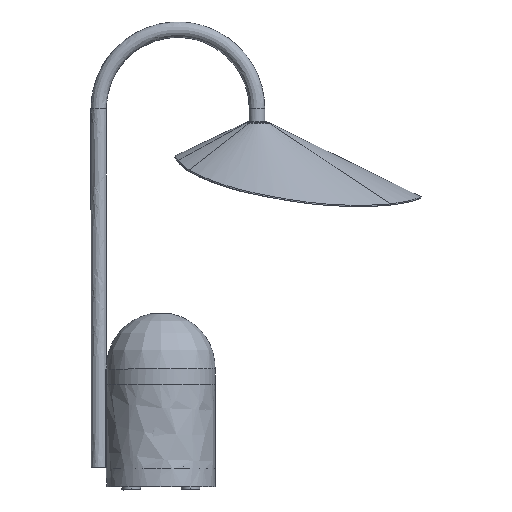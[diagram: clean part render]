
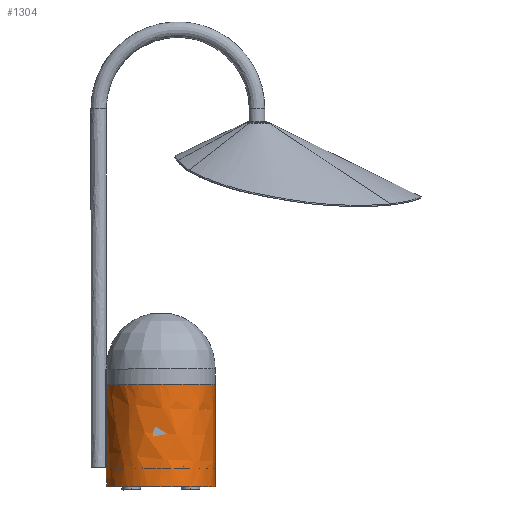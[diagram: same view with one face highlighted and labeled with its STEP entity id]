
A CAD part, front view. The second image highlights one B-rep face of the part: STEP entity #1304.
In plain terms, the highlighted free-form (B-spline) face has degree [2, 1] with [5, 2] control points.
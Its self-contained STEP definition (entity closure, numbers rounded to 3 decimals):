
#471=(
BOUNDED_SURFACE()
B_SPLINE_SURFACE(2,1,((#86390,#86391),(#86392,#86393),(#86394,#86395),(#86396,
#86397),(#86398,#86399)),.UNSPECIFIED.,.F.,.F.,.F.)
B_SPLINE_SURFACE_WITH_KNOTS((3,2,3),(2,2),(55.183,110.367,
165.55),(6.985,72.988),.UNSPECIFIED.)
GEOMETRIC_REPRESENTATION_ITEM()
RATIONAL_B_SPLINE_SURFACE(((1.,1.),(0.707,0.707),
(1.,1.),(0.707,0.707),(1.,1.)))
REPRESENTATION_ITEM('')
SURFACE()
);
#1304=ADVANCED_FACE('',(#2045),#471,.T.);
#2045=FACE_OUTER_BOUND('',#2886,.T.);
#2886=EDGE_LOOP('',(#6478,#6479,#6480,#6481,#6482,#6483,#6484,#6485,#6486,
#6487,#6488));
#6478=ORIENTED_EDGE('',*,*,#8399,.F.);
#6479=ORIENTED_EDGE('',*,*,#8424,.T.);
#6480=ORIENTED_EDGE('',*,*,#8428,.F.);
#6481=ORIENTED_EDGE('',*,*,#8413,.F.);
#6482=ORIENTED_EDGE('',*,*,#8427,.T.);
#6483=ORIENTED_EDGE('',*,*,#8444,.T.);
#6484=ORIENTED_EDGE('',*,*,#8446,.T.);
#6485=ORIENTED_EDGE('',*,*,#8426,.T.);
#6486=ORIENTED_EDGE('',*,*,#8431,.T.);
#6487=ORIENTED_EDGE('',*,*,#8425,.F.);
#6488=ORIENTED_EDGE('',*,*,#8410,.F.);
#8399=EDGE_CURVE('',#11541,#11540,#10307,.T.);
#8410=EDGE_CURVE('',#11540,#11544,#9010,.T.);
#8413=EDGE_CURVE('',#11547,#11546,#10315,.T.);
#8424=EDGE_CURVE('',#11541,#11554,#10323,.T.);
#8425=EDGE_CURVE('',#11544,#11552,#10324,.T.);
#8426=EDGE_CURVE('',#11556,#11555,#10325,.T.);
#8427=EDGE_CURVE('',#11547,#11558,#9016,.T.);
#8428=EDGE_CURVE('',#11546,#11554,#9017,.T.);
#8431=EDGE_CURVE('',#11555,#11552,#9018,.T.);
#8444=EDGE_CURVE('',#11558,#11557,#10339,.T.);
#8446=EDGE_CURVE('',#11557,#11556,#10341,.T.);
#9010=(
BOUNDED_CURVE()
B_SPLINE_CURVE(2,(#86914,#86915,#86916,#86917,#86918),.UNSPECIFIED.,.F.,
 .F.)
B_SPLINE_CURVE_WITH_KNOTS((3,2,3),(-107.525,-53.762,
0.),.UNSPECIFIED.)
CURVE()
GEOMETRIC_REPRESENTATION_ITEM()
RATIONAL_B_SPLINE_CURVE((1.,0.719,1.,0.719,1.))
REPRESENTATION_ITEM('')
);
#9016=(
BOUNDED_CURVE()
B_SPLINE_CURVE(2,(#86977,#86978,#86979),.UNSPECIFIED.,.F.,.F.)
B_SPLINE_CURVE_WITH_KNOTS((3,3),(-0.5,0.),.UNSPECIFIED.)
CURVE()
GEOMETRIC_REPRESENTATION_ITEM()
RATIONAL_B_SPLINE_CURVE((1.,1.,1.))
REPRESENTATION_ITEM('')
);
#9017=(
BOUNDED_CURVE()
B_SPLINE_CURVE(2,(#86980,#86981,#86982),.UNSPECIFIED.,.F.,.F.)
B_SPLINE_CURVE_WITH_KNOTS((3,3),(0.,2.753),.UNSPECIFIED.)
CURVE()
GEOMETRIC_REPRESENTATION_ITEM()
RATIONAL_B_SPLINE_CURVE((1.,0.999,1.))
REPRESENTATION_ITEM('')
);
#9018=(
BOUNDED_CURVE()
B_SPLINE_CURVE(2,(#86987,#86988,#86989,#86990,#86991),.UNSPECIFIED.,.F.,
 .F.)
B_SPLINE_CURVE_WITH_KNOTS((3,2,3),(0.,53.662,107.324),
 .UNSPECIFIED.)
CURVE()
GEOMETRIC_REPRESENTATION_ITEM()
RATIONAL_B_SPLINE_CURVE((1.,0.722,1.,0.722,1.))
REPRESENTATION_ITEM('')
);
#10307=B_SPLINE_CURVE_WITH_KNOTS('',3,(#86871,#86872,#86873,#86874,#86875,
#86876),.UNSPECIFIED.,.F.,.F.,(4,1,1,4),(-13.32,-8.88,
-4.44,0.),.UNSPECIFIED.);
#10315=B_SPLINE_CURVE_WITH_KNOTS('',1,(#86927,#86928),.UNSPECIFIED.,.F.,
 .F.,(2,2),(-6.764,0.),.UNSPECIFIED.);
#10323=B_SPLINE_CURVE_WITH_KNOTS('',1,(#86966,#86967),.UNSPECIFIED.,.F.,
 .F.,(2,2),(0.,40.),.UNSPECIFIED.);
#10324=B_SPLINE_CURVE_WITH_KNOTS('',1,(#86968,#86969),.UNSPECIFIED.,.F.,
 .F.,(2,2),(0.,66.004),.UNSPECIFIED.);
#10325=B_SPLINE_CURVE_WITH_KNOTS('',3,(#86970,#86971,#86972,#86973,#86974,
#86975,#86976),.UNSPECIFIED.,.F.,.F.,(4,1,1,1,4),(-0.799,-0.6,
-0.4,-0.2,0.),.UNSPECIFIED.);
#10339=B_SPLINE_CURVE_WITH_KNOTS('',3,(#87047,#87048,#87049,#87050,#87051,
#87052,#87053,#87054),.UNSPECIFIED.,.F.,.F.,(4,1,1,1,1,4),(0.,0.635,
1.271,1.906,2.541,3.177),
 .UNSPECIFIED.);
#10341=B_SPLINE_CURVE_WITH_KNOTS('',1,(#87057,#87058),.UNSPECIFIED.,.F.,
 .F.,(2,2),(0.,3.423),.UNSPECIFIED.);
#11540=VERTEX_POINT('',#86534);
#11541=VERTEX_POINT('',#86535);
#11544=VERTEX_POINT('',#86538);
#11546=VERTEX_POINT('',#86540);
#11547=VERTEX_POINT('',#86541);
#11552=VERTEX_POINT('',#86546);
#11554=VERTEX_POINT('',#86548);
#11555=VERTEX_POINT('',#86549);
#11556=VERTEX_POINT('',#86550);
#11557=VERTEX_POINT('',#86551);
#11558=VERTEX_POINT('',#86552);
#86390=CARTESIAN_POINT('',(1346.981,0.023,66.08));
#86391=CARTESIAN_POINT('',(1347.158,0.023,0.076));
#86392=CARTESIAN_POINT('',(1346.981,-34.977,66.08));
#86393=CARTESIAN_POINT('',(1347.158,-35.095,0.076));
#86394=CARTESIAN_POINT('',(1311.981,-34.977,66.049));
#86395=CARTESIAN_POINT('',(1312.039,-35.095,0.046));
#86396=CARTESIAN_POINT('',(1276.981,-34.977,66.018));
#86397=CARTESIAN_POINT('',(1276.921,-35.095,0.015));
#86398=CARTESIAN_POINT('',(1276.981,0.023,66.018));
#86399=CARTESIAN_POINT('',(1276.921,0.023,0.015));
#86534=CARTESIAN_POINT('',(1277.066,-2.406,66.018));
#86535=CARTESIAN_POINT('',(1277.077,-2.727,52.702));
#86538=CARTESIAN_POINT('',(1346.981,0.023,66.08));
#86540=CARTESIAN_POINT('',(1276.933,0.023,12.702));
#86541=CARTESIAN_POINT('',(1276.926,0.023,5.938));
#86546=CARTESIAN_POINT('',(1347.158,0.023,0.076));
#86548=CARTESIAN_POINT('',(1277.04,-2.727,12.702));
#86549=CARTESIAN_POINT('',(1277.049,-2.977,0.015));
#86550=CARTESIAN_POINT('',(1277.01,-2.477,0.515));
#86551=CARTESIAN_POINT('',(1277.014,-2.477,3.938));
#86552=CARTESIAN_POINT('',(1276.93,-0.477,5.938));
#86871=CARTESIAN_POINT('',(1277.077,-2.727,52.702));
#86872=CARTESIAN_POINT('',(1277.076,-2.693,54.196));
#86873=CARTESIAN_POINT('',(1277.073,-2.624,57.174));
#86874=CARTESIAN_POINT('',(1277.07,-2.516,61.613));
#86875=CARTESIAN_POINT('',(1277.067,-2.444,64.553));
#86876=CARTESIAN_POINT('',(1277.066,-2.406,66.018));
#86914=CARTESIAN_POINT('',(1277.066,-2.406,66.018));
#86915=CARTESIAN_POINT('',(1279.412,-36.129,66.02));
#86916=CARTESIAN_POINT('',(1313.196,-34.956,66.05));
#86917=CARTESIAN_POINT('',(1346.981,-33.782,66.08));
#86918=CARTESIAN_POINT('',(1346.981,0.023,66.08));
#86927=CARTESIAN_POINT('',(1276.926,0.023,5.938));
#86928=CARTESIAN_POINT('',(1276.933,0.023,12.702));
#86966=CARTESIAN_POINT('',(1277.077,-2.727,52.702));
#86967=CARTESIAN_POINT('',(1277.04,-2.727,12.702));
#86968=CARTESIAN_POINT('',(1346.981,0.023,66.08));
#86969=CARTESIAN_POINT('',(1347.158,0.023,0.076));
#86970=CARTESIAN_POINT('',(1277.01,-2.477,0.515));
#86971=CARTESIAN_POINT('',(1277.01,-2.477,0.45));
#86972=CARTESIAN_POINT('',(1277.012,-2.502,0.32));
#86973=CARTESIAN_POINT('',(1277.02,-2.614,0.152));
#86974=CARTESIAN_POINT('',(1277.033,-2.782,0.04));
#86975=CARTESIAN_POINT('',(1277.044,-2.912,0.015));
#86976=CARTESIAN_POINT('',(1277.049,-2.977,0.015));
#86977=CARTESIAN_POINT('',(1276.926,0.023,5.938));
#86978=CARTESIAN_POINT('',(1276.926,-0.227,5.938));
#86979=CARTESIAN_POINT('',(1276.93,-0.477,5.938));
#86980=CARTESIAN_POINT('',(1276.933,0.023,12.702));
#86981=CARTESIAN_POINT('',(1276.933,-1.354,12.702));
#86982=CARTESIAN_POINT('',(1277.04,-2.727,12.702));
#86987=CARTESIAN_POINT('',(1277.049,-2.977,0.015));
#86988=CARTESIAN_POINT('',(1279.924,-36.502,0.017));
#86989=CARTESIAN_POINT('',(1313.541,-35.063,0.047));
#86990=CARTESIAN_POINT('',(1347.158,-33.625,0.076));
#86991=CARTESIAN_POINT('',(1347.158,0.023,0.076));
#87047=CARTESIAN_POINT('',(1276.93,-0.477,5.938));
#87048=CARTESIAN_POINT('',(1276.933,-0.686,5.938));
#87049=CARTESIAN_POINT('',(1276.943,-1.105,5.872));
#87050=CARTESIAN_POINT('',(1276.966,-1.675,5.581));
#87051=CARTESIAN_POINT('',(1276.991,-2.121,5.134));
#87052=CARTESIAN_POINT('',(1277.009,-2.411,4.566));
#87053=CARTESIAN_POINT('',(1277.014,-2.477,4.147));
#87054=CARTESIAN_POINT('',(1277.014,-2.477,3.938));
#87057=CARTESIAN_POINT('',(1277.014,-2.477,3.938));
#87058=CARTESIAN_POINT('',(1277.01,-2.477,0.515));
